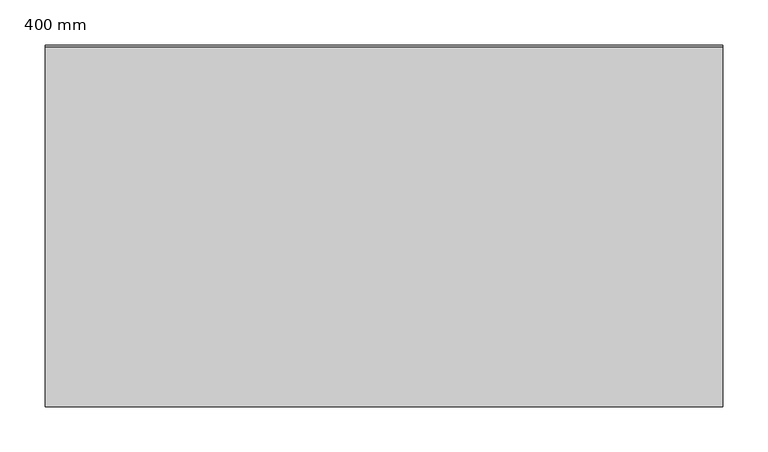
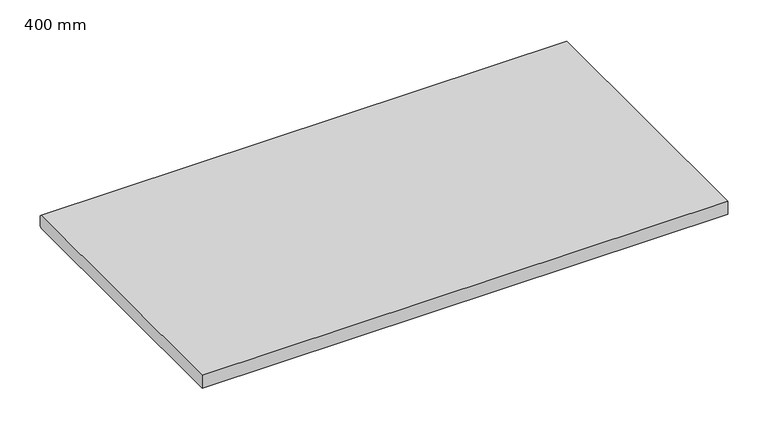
"""IFC4 building model written with IfcOpenShell, lengths in millimetres: proxy geometry, 400_35_NS_vensterbank : 400 mm."""

from ifc_helpers import new_model, si_unit, frame, origin, place, context, project, spatial, polyline, outline, extrude, source, transform, mapped, element, save


def proxy_400_mm_2aad5f86(model_context):
    return source(origin(), model_context, "Body", "SweptSolid", [
        extrude(outline(polyline([(0.0, 0.0), (0.0, 20.0), (398.0, 20.0), (400.0, 18.0), (400.0, 2.0), (398.0, 0.0), (0.0, 0.0)])), frame((-375.0, 0.0, 0.0), z_axis=(1.0, 0.0, 0.0), x_axis=(0.0, 1.0, 0.0)), (0.0, 0.0, 1.0), 750.0),
    ])


if __name__ == "__main__":
    model = new_model("IFC4")
    model_context = context("Model", 3, world=origin())
    ifc_project = project(units=[si_unit("LENGTHUNIT", "METRE", prefix="MILLI")], contexts=[model_context])
    site = spatial("IfcSite", under=ifc_project)
    building = spatial("IfcBuilding", under=site)
    placement = place(None, origin())
    proxy_400_mm_shape = proxy_400_mm_2aad5f86(model_context)
    element("IfcBuildingElementProxy", 1, Name="400_35_NS_vensterbank : 400 mm", ObjectType="400_35_NS_vensterbank : 400 mm", at=placement, inside=building, context=model_context, shape_type="MappedRepresentation", body=[
        mapped(proxy_400_mm_shape, transform((0.0, 0.0, 0.0), x_axis=(1.0, 0.0, 0.0), y_axis=(0.0, 1.0, 0.0), z_axis=(0.0, 0.0, 1.0))),
    ])
    save(model, "model.ifc")
